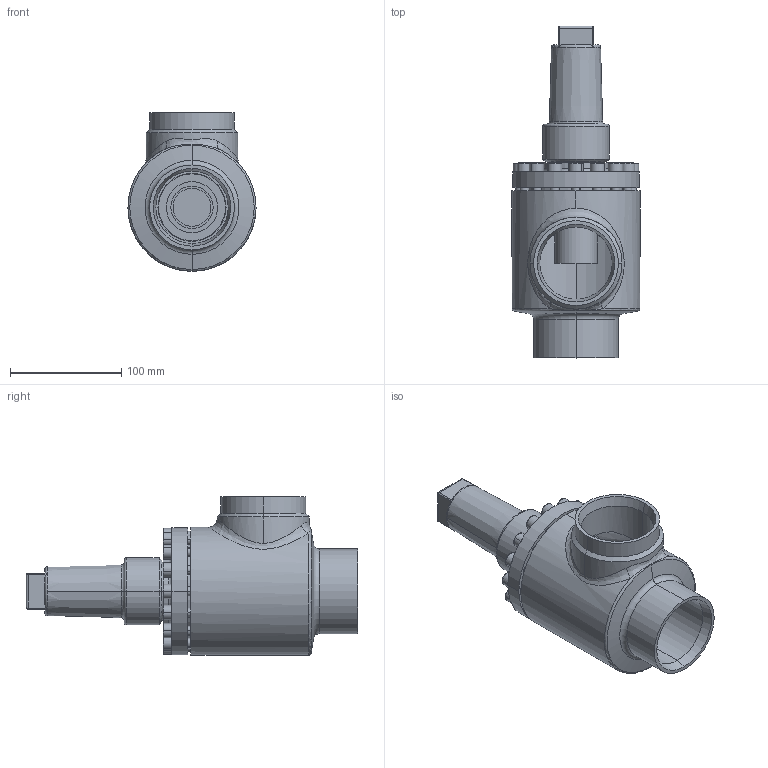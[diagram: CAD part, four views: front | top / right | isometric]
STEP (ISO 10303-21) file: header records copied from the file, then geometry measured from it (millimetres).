
FILE_DESCRIPTION (( 'STEP AP214' ), '1' );
FILE_NAME ('HRAB12400D17-DN065_R1_PS40.STEP', '2006-04-27T12:05:14', ( 'Herr Grams' ), ( 'AWP GmbH' ), 'SwSTEP 2.0', 'SolidWorks 2002296', '' );
FILE_SCHEMA (( 'AUTOMOTIVE_DESIGN' ));
Length unit declared in the file: millimetre
Products named in the file (6): HRAB12400D17-DN065_R1_PS40; AVB16300K17_Deck+Schr-DN65_Standard; Deckel16300K17-DN65_Standard; Zylinderschraube-DIN912_M 8x 25; Kappe16402_DN040-65_Standard; Gehäuse16400-DN065_Standard
Assembly tree (20 placements, depth 3):
  HRAB12400D17-DN065_R1_PS40
    Kappe16402_DN040-65_Standard
    AVB16300K17_Deck+Schr-DN65_Standard
      Zylinderschraube-DIN912_M 8x 25  x16
      Deckel16300K17-DN65_Standard
    Gehäuse16400-DN065_Standard
Bounding box: 115 x 298 x 142.5 mm (x, y, z)
Volume: 915101.8 mm3; surface area: 214697.5 mm2
Topology: 19 solids, 19 shells, 452 faces, 996 edges, 630 vertices
Faces by surface type: plane 193, cylinder 158, cone 52, torus 47, bspline 2
Entity records: 16445 total; most frequent: CARTESIAN_POINT 11407, DIRECTION 1024, ORIENTED_EDGE 852, AXIS2_PLACEMENT_3D 436, EDGE_CURVE 426, VERTEX_POINT 270, EDGE_LOOP 236, CIRCLE 232
